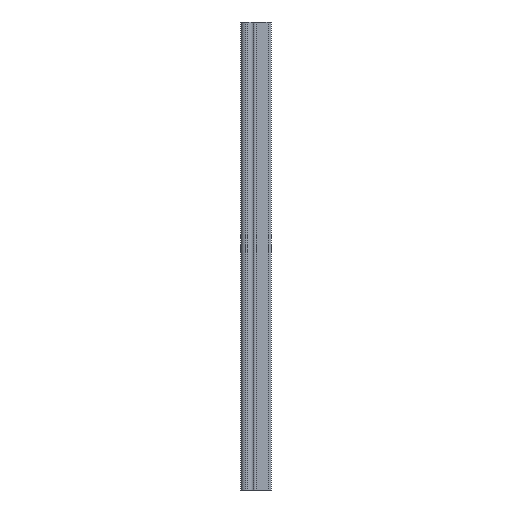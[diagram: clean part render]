
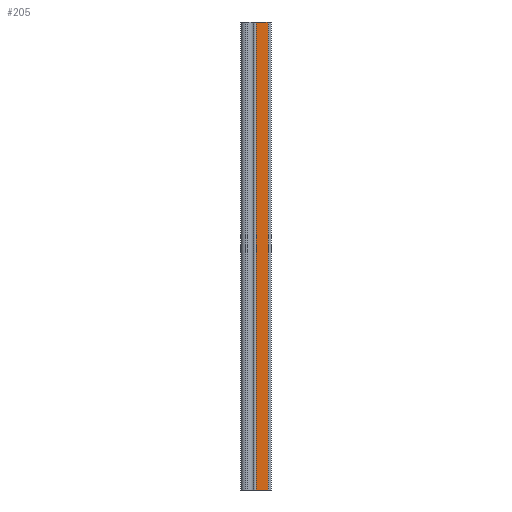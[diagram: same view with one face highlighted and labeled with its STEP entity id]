
A CAD part, front view. The second image highlights one B-rep face of the part: STEP entity #205.
In plain terms, the highlighted planar face has unit normal (0, -1, 0).
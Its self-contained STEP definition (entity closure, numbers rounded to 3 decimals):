
#194 = ORIENTED_EDGE ( 'NONE', *, *, #209, .T. ) ;
#196 = EDGE_LOOP ( 'NONE', ( #194, #207, #201, #199 ) ) ;
#197 = VERTEX_POINT ( 'NONE', #615 ) ;
#198 = EDGE_CURVE ( 'NONE', #208, #197, #621, .T. ) ;
#199 = ORIENTED_EDGE ( 'NONE', *, *, #202, .T. ) ;
#200 = EDGE_CURVE ( 'NONE', #197, #206, #617, .T. ) ;
#201 = ORIENTED_EDGE ( 'NONE', *, *, #198, .F. ) ;
#202 = EDGE_CURVE ( 'NONE', #208, #214, #619, .T. ) ;
#205 = ADVANCED_FACE ( 'NONE', ( #620 ), #633, .F. ) ;
#206 = VERTEX_POINT ( 'NONE', #638 ) ;
#207 = ORIENTED_EDGE ( 'NONE', *, *, #200, .F. ) ;
#208 = VERTEX_POINT ( 'NONE', #623 ) ;
#209 = EDGE_CURVE ( 'NONE', #214, #206, #641, .T. ) ;
#214 = VERTEX_POINT ( 'NONE', #681 ) ;
#615 = CARTESIAN_POINT ( 'NONE',  ( -29.3, 4., -500. ) ) ;
#617 = LINE ( 'NONE', #637, #636 ) ;
#618 = CARTESIAN_POINT ( 'NONE',  ( -3.3, 4., -500. ) ) ;
#619 = LINE ( 'NONE', #618, #634 ) ;
#620 = FACE_OUTER_BOUND ( 'NONE', #196, .T. ) ;
#621 = LINE ( 'NONE', #628, #627 ) ;
#623 = CARTESIAN_POINT ( 'NONE',  ( -3.3, 4., -500. ) ) ;
#626 = DIRECTION ( 'NONE',  ( -1., 0., 0. ) ) ;
#627 = VECTOR ( 'NONE', #626, 1000. ) ;
#628 = CARTESIAN_POINT ( 'NONE',  ( -3.3, 4., -500. ) ) ;
#633 = PLANE ( 'NONE',  #640 ) ;
#634 = VECTOR ( 'NONE', #647, 1000. ) ;
#635 = DIRECTION ( 'NONE',  ( 0., 0., 1. ) ) ;
#636 = VECTOR ( 'NONE', #635, 1000. ) ;
#637 = CARTESIAN_POINT ( 'NONE',  ( -29.3, 4., -500. ) ) ;
#638 = CARTESIAN_POINT ( 'NONE',  ( -29.3, 4., 0. ) ) ;
#639 = CARTESIAN_POINT ( 'NONE',  ( -3.3, 4., -500. ) ) ;
#640 = AXIS2_PLACEMENT_3D ( 'NONE', #639, #646, #688 ) ;
#641 = LINE ( 'NONE', #684, #683 ) ;
#646 = DIRECTION ( 'NONE',  ( 0., 1., 0. ) ) ;
#647 = DIRECTION ( 'NONE',  ( 0., 0., 1. ) ) ;
#681 = CARTESIAN_POINT ( 'NONE',  ( -3.3, 4., 0. ) ) ;
#682 = DIRECTION ( 'NONE',  ( -1., 0., 0. ) ) ;
#683 = VECTOR ( 'NONE', #682, 1000. ) ;
#684 = CARTESIAN_POINT ( 'NONE',  ( -3.3, 4., 0. ) ) ;
#688 = DIRECTION ( 'NONE',  ( 0., 0., 1. ) ) ;
